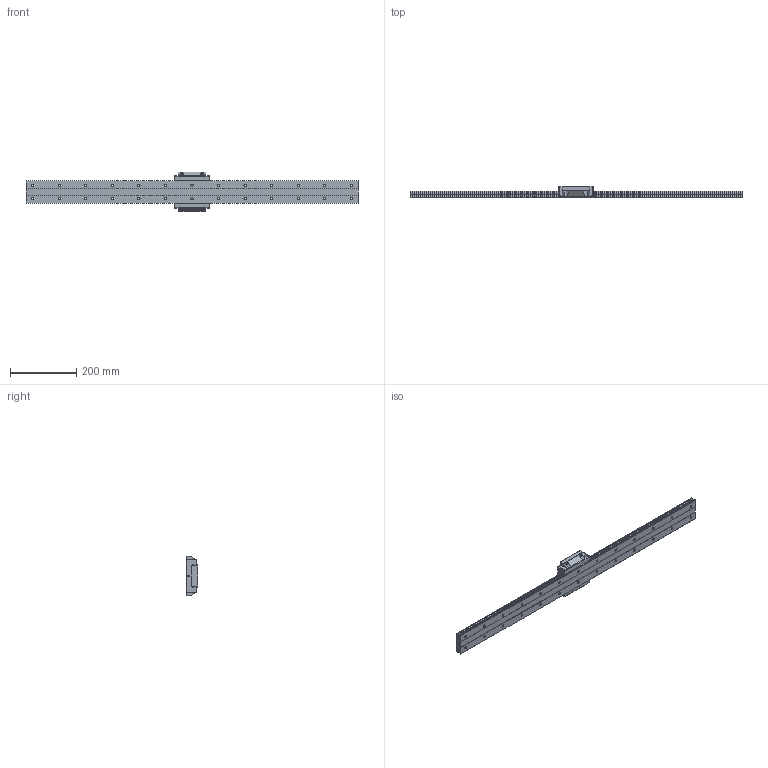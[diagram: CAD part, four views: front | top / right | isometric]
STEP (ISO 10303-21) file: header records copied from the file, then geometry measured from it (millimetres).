
FILE_DESCRIPTION( ( '' ), '1' );
FILE_NAME( 'C:/Users/v3-771-32344/Documents/Website 2016/STEP/SHW35CA1UU1000200446.5000.stp', '2016-11-10T12:44:18', ( '' ), ( '' ), ' ', ' ', ' ' );
FILE_SCHEMA( ( 'CONFIG_CONTROL_DESIGN' ) );
Length unit declared in the file: millimetre
Products named in the file (2): 1; 2
Bounding box: 1000 x 35 x 120 mm (x, y, z)
Volume: 1443746.8 mm3; surface area: 234318.5 mm2
Topology: 2 solids, 2 shells, 346 faces, 884 edges, 566 vertices
Faces by surface type: cylinder 162, plane 152, cone 32
Entity records: 10844 total; most frequent: DIRECTION 1948, CARTESIAN_POINT 1926, ORIENTED_EDGE 1760, EDGE_CURVE 880, AXIS2_PLACEMENT_3D 724, VERTEX_POINT 566, LINE 500, VECTOR 500
